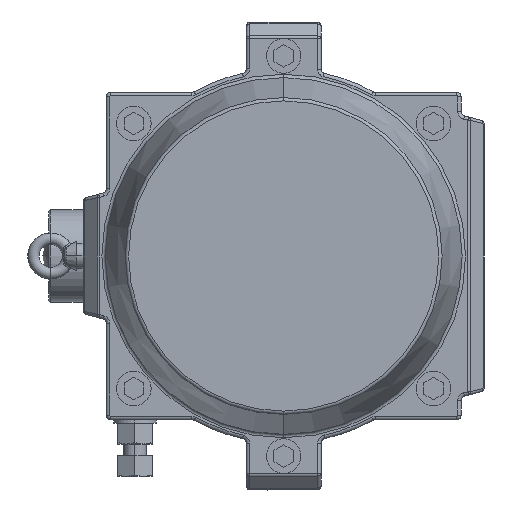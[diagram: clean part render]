
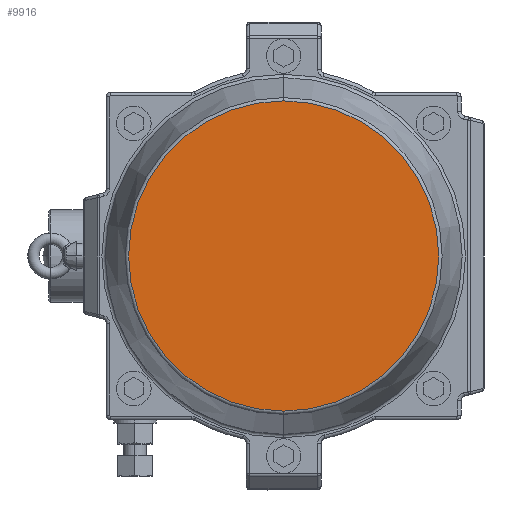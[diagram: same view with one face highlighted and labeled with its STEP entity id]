
A CAD part, left-side view. The second image highlights one B-rep face of the part: STEP entity #9916.
In plain terms, the highlighted planar face has unit normal (-1, 0, 0).
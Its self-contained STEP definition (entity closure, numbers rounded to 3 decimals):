
#84 = AXIS2_PLACEMENT_3D ( 'NONE', #3446, #14123, #8887 ) ;
#101 = EDGE_LOOP ( 'NONE', ( #14137, #16708 ) ) ;
#150 = VERTEX_POINT ( 'NONE', #9986 ) ;
#275 = AXIS2_PLACEMENT_3D ( 'NONE', #13371, #7971, #22146 ) ;
#2496 = DIRECTION ( 'NONE',  ( -1., 0., 0. ) ) ;
#2564 = DIRECTION ( 'NONE',  ( 0., 0., 1. ) ) ;
#3446 = CARTESIAN_POINT ( 'NONE',  ( -384.5, 0., 0. ) ) ;
#4610 = AXIS2_PLACEMENT_3D ( 'NONE', #18608, #2496, #2564 ) ;
#5881 = CARTESIAN_POINT ( 'NONE',  ( -384.5, 0., -134.553 ) ) ;
#7971 = DIRECTION ( 'NONE',  ( -1., 0., 0. ) ) ;
#7992 = EDGE_CURVE ( 'NONE', #150, #12595, #23160, .T. ) ;
#8887 = DIRECTION ( 'NONE',  ( 0., 0., 1. ) ) ;
#8910 = FACE_OUTER_BOUND ( 'NONE', #101, .T. ) ;
#9916 = ADVANCED_FACE ( 'NONE', ( #8910 ), #16475, .T. ) ;
#9986 = CARTESIAN_POINT ( 'NONE',  ( -384.5, 0., 134.553 ) ) ;
#12595 = VERTEX_POINT ( 'NONE', #5881 ) ;
#13371 = CARTESIAN_POINT ( 'NONE',  ( -384.5, 0., 0. ) ) ;
#14123 = DIRECTION ( 'NONE',  ( -1., 0., 0. ) ) ;
#14137 = ORIENTED_EDGE ( 'NONE', *, *, #7992, .T. ) ;
#16475 = PLANE ( 'NONE',  #275 ) ;
#16708 = ORIENTED_EDGE ( 'NONE', *, *, #18560, .T. ) ;
#18560 = EDGE_CURVE ( 'NONE', #12595, #150, #20877, .T. ) ;
#18608 = CARTESIAN_POINT ( 'NONE',  ( -384.5, 0., 0. ) ) ;
#20877 = CIRCLE ( 'NONE', #4610, 134.553 ) ;
#22146 = DIRECTION ( 'NONE',  ( 0., 0., 1. ) ) ;
#23160 = CIRCLE ( 'NONE', #84, 134.553 ) ;
